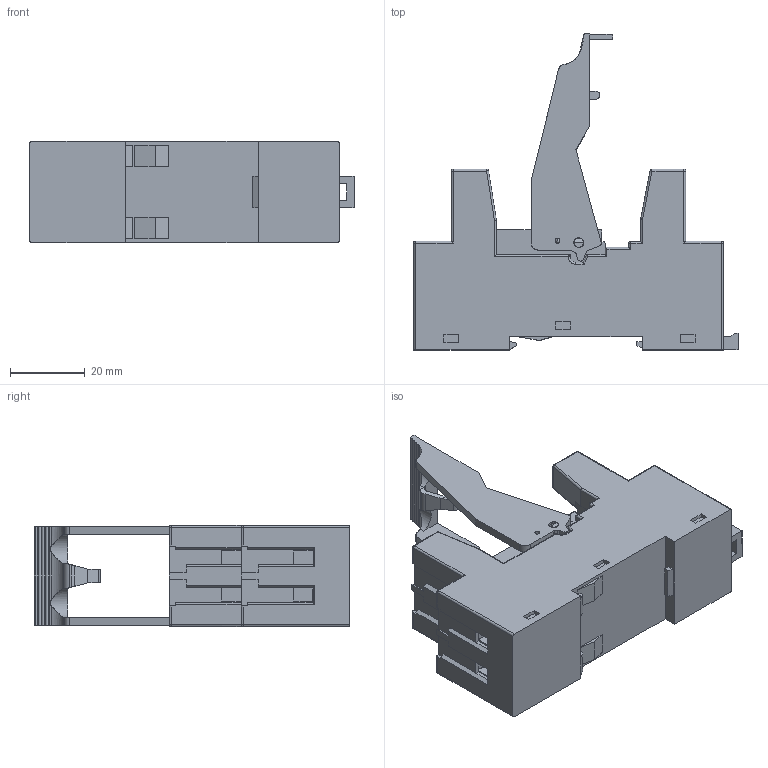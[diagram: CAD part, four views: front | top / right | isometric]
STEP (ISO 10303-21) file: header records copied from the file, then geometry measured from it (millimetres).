
FILE_DESCRIPTION(('STEP AP214'),'2;1');
FILE_NAME('9602+094913_catalogo.stp','2010-09-08T09:22:43',(''),(''),'2007.1.106','THINKDESIGN','');
FILE_SCHEMA(('AUTOMOTIVE_DESIGN'));
Products named in the file (1): None
Bounding box: 86.5 x 84.26 x 27 mm (x, y, z)
Surface area: 22177.3 mm2 (no closed solid volume)
Topology: 0 solids, 0 shells, 821 faces, 4530 edges, 4504 vertices
Faces by surface type: plane 599, cylinder 140, bspline 82
Full cylindrical faces by diameter (mm): 1.3 x2, 2.5 x1, 2.6 x2, 4.7 x8
Entity records: 45338 total; most frequent: CARTESIAN_POINT 12546, DIRECTION 5700, COMPOSITE_CURVE_SEGMENT 4504, TRIMMED_CURVE 3947, VECTOR 3672, LINE 3672, AXIS2_PLACEMENT_3D 1014, OUTER_BOUNDARY_CURVE 821
